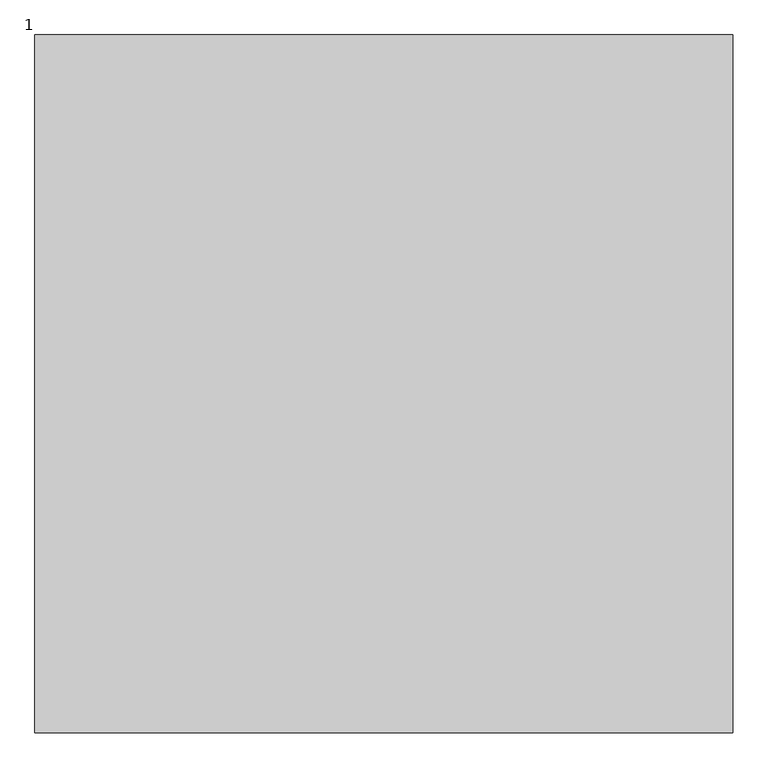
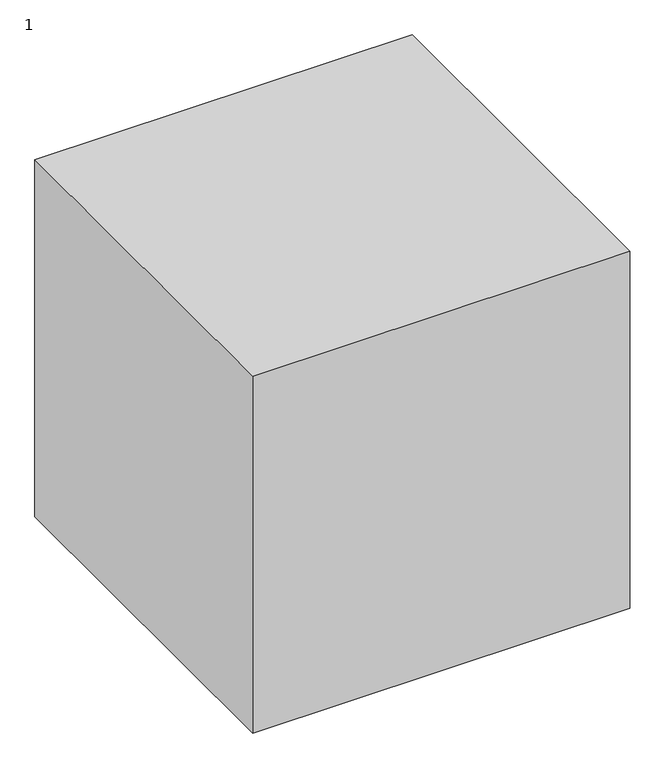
"""IFC4 building model written with IfcOpenShell, lengths in millimetres: proxy geometry, 12221211 : 1."""

import ifcopenshell
import ifcopenshell.guid

model = None  # the IFC model being written
_history = None  # IfcOwnerHistory: only IFC2X3 demands one
_inside = {}  # id of a spatial element -> (the spatial element, [elements in it])
_under = {}  # id of a project, library or spatial element -> (it, [spatial elements below it])
_declared = {}  # id of a project -> (the project, [libraries it declares])
_typed = {}  # id of a type object -> (the type object, [elements of that type])
_made_of = {}  # id of a material, layer set ... -> (it, [elements and type objects made of it])


def new_model(schema):
    """Start an empty IFC model of exactly this schema.

    Asked for "IFC4X3", IfcOpenShell would pick the latest addendum, in which some entities
    have other attributes; the version numbers below select the first issue.
    IFC2X3 requires an IfcOwnerHistory on every rooted entity: one is made here for all.
    """
    global model, _history
    if schema == "IFC4X3":
        model = ifcopenshell.file(schema_version=(4, 3, 0, 0))
    else:
        model = ifcopenshell.file(schema=schema)
    _inside.clear()
    _under.clear()
    _declared.clear()
    _typed.clear()
    _made_of.clear()
    _history = None
    if model.schema == "IFC2X3":
        org = make("IfcOrganization", Name="unknown")
        user = make(
            "IfcPersonAndOrganization",
            ThePerson=make("IfcPerson", FamilyName="unknown"),
            TheOrganization=org,
        )
        app = make(
            "IfcApplication",
            ApplicationDeveloper=org,
            Version="unknown",
            ApplicationFullName="unknown",
            ApplicationIdentifier="unknown",
        )
        _history = make(
            "IfcOwnerHistory",
            OwningUser=user,
            OwningApplication=app,
            ChangeAction="ADDED",
            CreationDate=0,
        )
    return model


def make(cls, **values):
    """One entity of the class cls with the attributes given. An attribute that is None is left unset."""
    return model.create_entity(
        cls, **{name: value for name, value in values.items() if value is not None}
    )


def rooted(cls, **values):
    """An entity with a GlobalId (a new one), such as an element, a storey or a relation."""
    return make(cls, GlobalId=ifcopenshell.guid.new(), OwnerHistory=_history, **values)


def si_unit(unit_type, name, prefix=None):
    """IfcSIUnit, for example si_unit("LENGTHUNIT", "METRE", prefix="MILLI")."""
    return make("IfcSIUnit", UnitType=unit_type, Prefix=prefix, Name=name)


def assignment(units):
    """IfcUnitAssignment: the units of a project."""
    return None if units is None else make("IfcUnitAssignment", Units=units)


def point(xyz):
    """IfcCartesianPoint."""
    return None if xyz is None else make("IfcCartesianPoint", Coordinates=xyz)


def direction(xyz):
    """IfcDirection."""
    return None if xyz is None else make("IfcDirection", DirectionRatios=xyz)


def frame(location, z_axis=None, x_axis=None):
    """IfcAxis2Placement3D, a coordinate frame: its origin and axes. An axis left out is left unset."""
    return make(
        "IfcAxis2Placement3D",
        Location=point(location),
        Axis=direction(z_axis),
        RefDirection=direction(x_axis),
    )


def origin():
    """The frame at (0, 0, 0) with its axes left unset."""
    return frame((0.0, 0.0, 0.0))


def origin_with_axes():
    """The frame at (0, 0, 0) with the z axis (0, 0, 1) and the x axis (1, 0, 0) written out."""
    return frame((0.0, 0.0, 0.0), z_axis=(0.0, 0.0, 1.0), x_axis=(1.0, 0.0, 0.0))


def place(relative_to, where):
    """IfcLocalPlacement: puts the frame where relative to a parent placement (None: the world)."""
    return make(
        "IfcLocalPlacement", PlacementRelTo=relative_to, RelativePlacement=where
    )


def context(
    kind, dimensions, precision=None, world=None, true_north=None, identifier=None
):
    """IfcGeometricRepresentationContext, for example the 3D "Model" context."""
    return make(
        "IfcGeometricRepresentationContext",
        ContextIdentifier=identifier,
        ContextType=kind,
        CoordinateSpaceDimension=dimensions,
        Precision=precision,
        WorldCoordinateSystem=world,
        TrueNorth=true_north,
    )


def project(units=None, contexts=None):
    """IfcProject with its units and contexts."""
    return rooted(
        "IfcProject",
        Name="project",
        RepresentationContexts=contexts,
        UnitsInContext=assignment(units),
    )


def spatial(cls, under=None, at=None, **own):
    """A site, building, storey or space (cls), placed at a placement, below another one or the project."""
    s = rooted(cls, ObjectPlacement=at, **own)
    if under is not None:
        _under.setdefault(under.id(), (under, []))[1].append(s)
    return s


def polyline(points):
    """IfcPolyline through the points."""
    return make("IfcPolyline", Points=[point(p) for p in points])


def outline(outer, holes=None, kind="AREA"):
    """IfcArbitraryClosedProfileDef: a profile drawn as a closed curve; with holes, ...WithVoids."""
    if holes is None:
        return make("IfcArbitraryClosedProfileDef", ProfileType=kind, OuterCurve=outer)
    return make(
        "IfcArbitraryProfileDefWithVoids",
        ProfileType=kind,
        OuterCurve=outer,
        InnerCurves=holes,
    )


def extrude(swept, where, along, depth):
    """IfcExtrudedAreaSolid: the profile swept, set in the frame where, extruded along a direction by depth."""
    return make(
        "IfcExtrudedAreaSolid",
        SweptArea=swept,
        Position=where,
        ExtrudedDirection=direction(along),
        Depth=depth,
    )


def shape(context_of_items, identifier, shape_type, items):
    """IfcShapeRepresentation: the items that make up one representation, for example the "Body"."""
    return make(
        "IfcShapeRepresentation",
        ContextOfItems=context_of_items,
        RepresentationIdentifier=identifier,
        RepresentationType=shape_type,
        Items=items,
    )


def source(mapping_origin, context_of_items, identifier, shape_type, items):
    """IfcRepresentationMap: a shape defined once, which mapped items show again and again."""
    return make(
        "IfcRepresentationMap",
        MappingOrigin=mapping_origin,
        MappedRepresentation=shape(context_of_items, identifier, shape_type, items),
    )


def transform(
    local_origin,
    x_axis=None,
    y_axis=None,
    z_axis=None,
    scale=None,
    scale2=None,
    scale3=None,
    uniform=True,
):
    """IfcCartesianTransformationOperator3D, or its non-uniform kind. x_axis, y_axis, z_axis: its Axis1, 2, 3."""
    if uniform:
        return make(
            "IfcCartesianTransformationOperator3D",
            Axis1=direction(x_axis),
            Axis2=direction(y_axis),
            LocalOrigin=point(local_origin),
            Scale=scale,
            Axis3=direction(z_axis),
        )
    return make(
        "IfcCartesianTransformationOperator3DnonUniform",
        Axis1=direction(x_axis),
        Axis2=direction(y_axis),
        LocalOrigin=point(local_origin),
        Scale=scale,
        Axis3=direction(z_axis),
        Scale2=scale2,
        Scale3=scale3,
    )


def mapped(mapping_source, mapping_target):
    """IfcMappedItem: shows the shape of a source again, moved by a transform."""
    return make(
        "IfcMappedItem", MappingSource=mapping_source, MappingTarget=mapping_target
    )


def made_of(thing, what):
    """Note that an element or type object is made of a material, layer set ...; save() writes the relation."""
    if what is not None:
        _made_of.setdefault(what.id(), (what, []))[1].append(thing)
    return thing


def element(
    cls,
    number,
    at=None,
    inside=None,
    cuts=None,
    type_object=None,
    material=None,
    context=None,
    identifier="Body",
    shape_type=None,
    held_by="IfcProductDefinitionShape",
    body=None,
    shapes=None,
    **own,
):
    """One element of the class cls, such as IfcWall. Its Tag is "e" and its number.

    at: its placement. inside: the storey or other place that contains it. cuts: it is an
    opening in that element (IfcRelVoidsElement). A single representation is given by context,
    identifier, shape_type and body (its items); several are given by shapes. held_by: the class
    of the entity that holds the representations. save() writes the other relations.
    """
    e = rooted(cls, Tag="e%d" % number, ObjectPlacement=at, **own)
    if body is not None:
        shapes = [shape(context, identifier, shape_type, body)]
    if shapes is not None:
        e.Representation = make(held_by, Representations=shapes)
    if inside is not None:
        _inside.setdefault(inside.id(), (inside, []))[1].append(e)
    if cuts is not None:
        rooted(
            "IfcRelVoidsElement", RelatingBuildingElement=cuts, RelatedOpeningElement=e
        )
    if type_object is not None:
        _typed.setdefault(type_object.id(), (type_object, []))[1].append(e)
    return made_of(e, material)


def aggregate(whole, parts):
    """IfcRelAggregates: a whole, such as a stair, and the parts it consists of."""
    return rooted("IfcRelAggregates", RelatingObject=whole, RelatedObjects=parts)


def save(model, path):
    """Write the relations noted so far, then the file.

    IfcRelAggregates (storeys below a building ...), IfcRelContainedInSpatialStructure (elements
    in a storey), IfcRelDefinesByType, IfcRelAssociatesMaterial and IfcRelDeclares: one each for
    every whole, place, type object, material and project.
    """
    for whole, parts in _under.values():
        aggregate(whole, parts)
    for where, things in _inside.values():
        rooted(
            "IfcRelContainedInSpatialStructure",
            RelatedElements=things,
            RelatingStructure=where,
        )
    for kind, things in _typed.values():
        rooted("IfcRelDefinesByType", RelatedObjects=things, RelatingType=kind)
    for what, things in _made_of.values():
        rooted("IfcRelAssociatesMaterial", RelatedObjects=things, RelatingMaterial=what)
    for by, libraries in _declared.values():
        rooted("IfcRelDeclares", RelatingContext=by, RelatedDefinitions=libraries)
    model.write(path)


def proxy_1_ebdf1aab(model_context):
    return source(origin(), model_context, "Body", "SweptSolid", [
        extrude(outline(polyline([(-8307.9756708, -664.7705528), (-8307.9756708, -1664.7705528), (-9307.9756708, -1664.7705528), (-9307.9756708, -664.7705528), (-8307.9756708, -664.7705528)])), origin_with_axes(), (0.0, 0.0, 1.0), 1000.0),
    ])


if __name__ == "__main__":
    model = new_model("IFC4")
    model_context = context("Model", 3, world=origin())
    ifc_project = project(units=[si_unit("LENGTHUNIT", "METRE", prefix="MILLI")], contexts=[model_context])
    site = spatial("IfcSite", under=ifc_project)
    building = spatial("IfcBuilding", under=site)
    placement = place(None, origin())
    proxy_1_shape = proxy_1_ebdf1aab(model_context)
    element("IfcBuildingElementProxy", 1, Name="12221211 : 1", ObjectType="12221211 : 1", at=placement, inside=building, context=model_context, shape_type="MappedRepresentation", body=[
        mapped(proxy_1_shape, transform((0.0, 0.0, 0.0), x_axis=(1.0, 0.0, 0.0), y_axis=(0.0, 1.0, 0.0), z_axis=(0.0, 0.0, 1.0))),
    ])
    save(model, "model.ifc")
